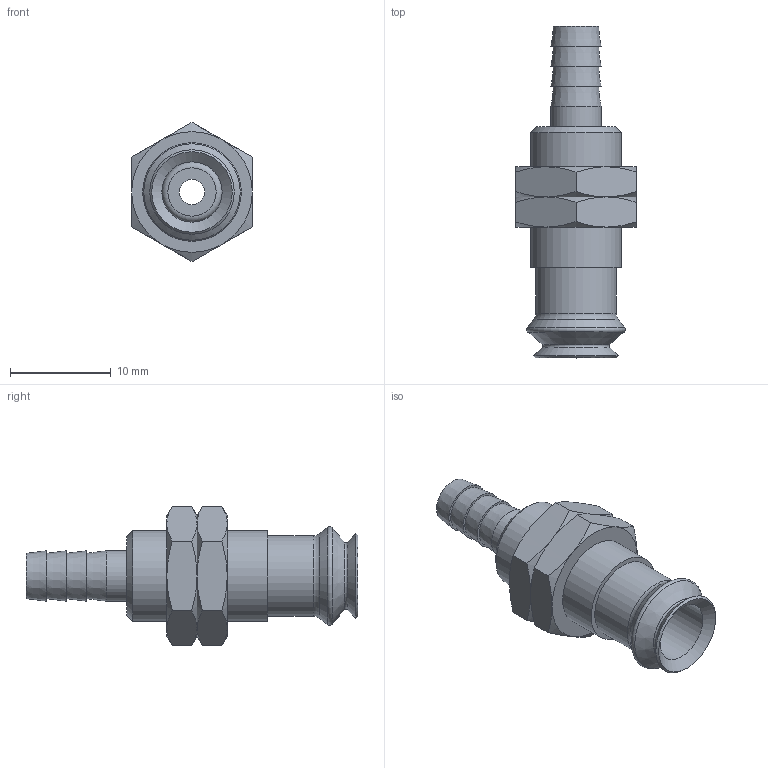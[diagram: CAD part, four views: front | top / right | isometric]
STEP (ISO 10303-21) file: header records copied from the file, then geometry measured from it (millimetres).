
FILE_DESCRIPTION(('STEP AP203'),'1');
FILE_NAME('.stp','2025-04-23T02:24:25',(' '),(' '),'Spatial InterOp 3D',' ',' ');
FILE_SCHEMA(('CONFIG_CONTROL_DESIGN'));
Length unit declared in the file: millimetre
Products named in the file (4): BBPJTK-8-※; NUT-8-PJ_K; PJTK-8; BPJG-8-※
Assembly tree (4 placements, depth 2):
  BBPJTK-8-※
    NUT-8-PJ_K  x2
    PJTK-8
    BPJG-8-※
Bounding box: 12 x 33 x 13.86 mm (x, y, z)
Volume: 1676.2 mm3; surface area: 2100.5 mm2
Topology: 4 solids, 4 shells, 83 faces, 166 edges, 97 vertices
Faces by surface type: cone 38, plane 26, cylinder 10, torus 9
Full cylindrical faces by diameter (mm): 2.5 x1, 4 x2, 5 x1, 6 x2, 7.917 x2, 8 x1, 9 x1
Entity records: 1744 total; most frequent: CARTESIAN_POINT 453, DIRECTION 242, ORIENTED_EDGE 166, AXIS2_PLACEMENT_3D 118, EDGE_LOOP 102, EDGE_CURVE 83, FACE_OUTER_BOUND 78, VERTEX_POINT 65
